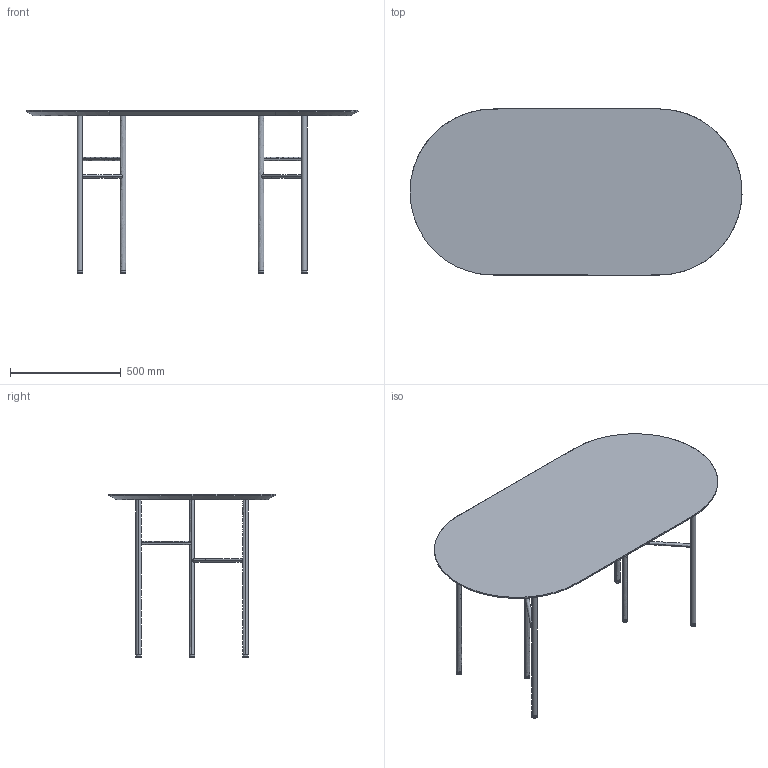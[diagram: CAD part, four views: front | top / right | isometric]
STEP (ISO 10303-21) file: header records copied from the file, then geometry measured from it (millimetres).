
FILE_DESCRIPTION(/* description */ (''),/* implementation_level */ '2;1');
FILE_NAME(/* name */ 'MJEWD7~G',/* time_stamp */ '2019-03-20T11:55:56+01:00',/* author */ (''),/* organization */ (''),/* preprocessor_version */ 'ST-DEVELOPER v16.5',/* originating_system */ '',/* authorisation */ '');
FILE_SCHEMA (('AUTOMOTIVE_DESIGN'));
Length unit declared in the file: millimetre
Products named in the file (1): Document
Bounding box: 1499.79 x 750 x 738.72 mm (x, y, z)
Volume: 1029018.4 mm3; surface area: 2831843.3 mm2
Topology: 8 solids, 11 shells, 206 faces, 479 edges, 331 vertices
Faces by surface type: bspline 150, plane 56
Entity records: 8110 total; most frequent: CARTESIAN_POINT 5206, ORIENTED_EDGE 926, EDGE_CURVE 469, VERTEX_POINT 319, EDGE_LOOP 304, ADVANCED_FACE 206, FACE_OUTER_BOUND 206, B_SPLINE_CURVE_WITH_KNOTS 122
